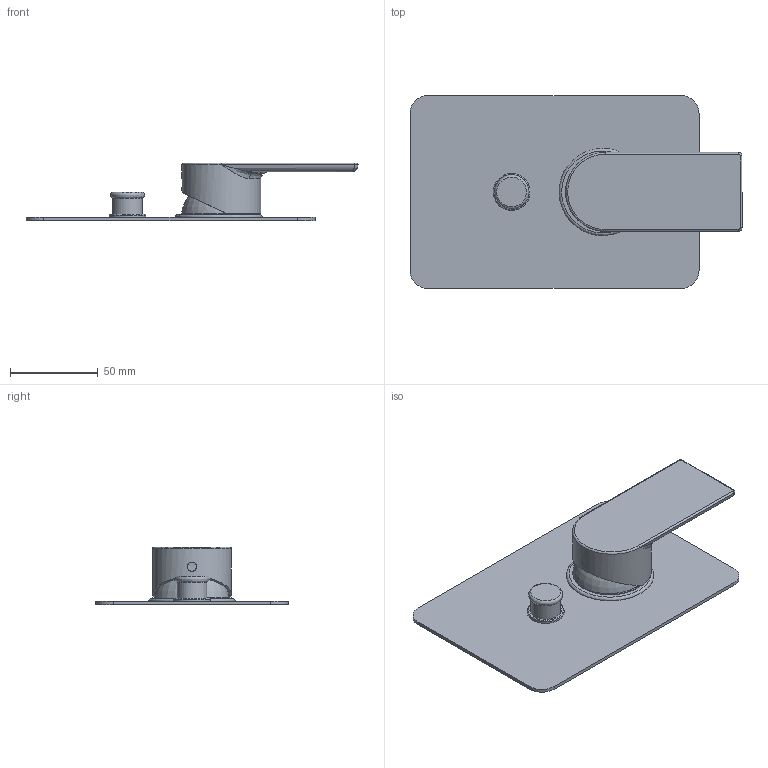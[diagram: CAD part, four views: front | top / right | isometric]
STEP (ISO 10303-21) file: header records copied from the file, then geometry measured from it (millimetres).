
FILE_DESCRIPTION (( 'STEP AP203' ), '1' );
FILE_NAME ('801197 x architetti.STEP', '2023-07-03T14:52:32', ( '' ), ( '' ), 'SwSTEP 2.0', 'SolidWorks 2020', '' );
FILE_SCHEMA (( 'CONFIG_CONTROL_DESIGN' ));
Length unit declared in the file: millimetre
Products named in the file (1): 801197 x architetti
Bounding box: 189.54 x 110 x 33 mm (x, y, z)
Volume: 96073.3 mm3; surface area: 56749.2 mm2
Topology: 3 solids, 6 shells, 95 faces, 207 edges, 131 vertices
Faces by surface type: plane 45, cylinder 30, bspline 9, cone 8, torus 3
Full cylindrical faces by diameter (mm): 2.459 x1, 3 x1, 4 x1, 15 x1, 17 x1, 17.917 x1, 21 x1, 25.7 x1, 26 x1, 34 x1, 37.8 x1, 41 x1, 42 x1, 42.4 x1, 45 x1
Entity records: 3253 total; most frequent: CARTESIAN_POINT 1320, DIRECTION 399, ORIENTED_EDGE 326, AXIS2_PLACEMENT_3D 169, EDGE_CURVE 163, EDGE_LOOP 135, VERTEX_POINT 116, FACE_OUTER_BOUND 114
